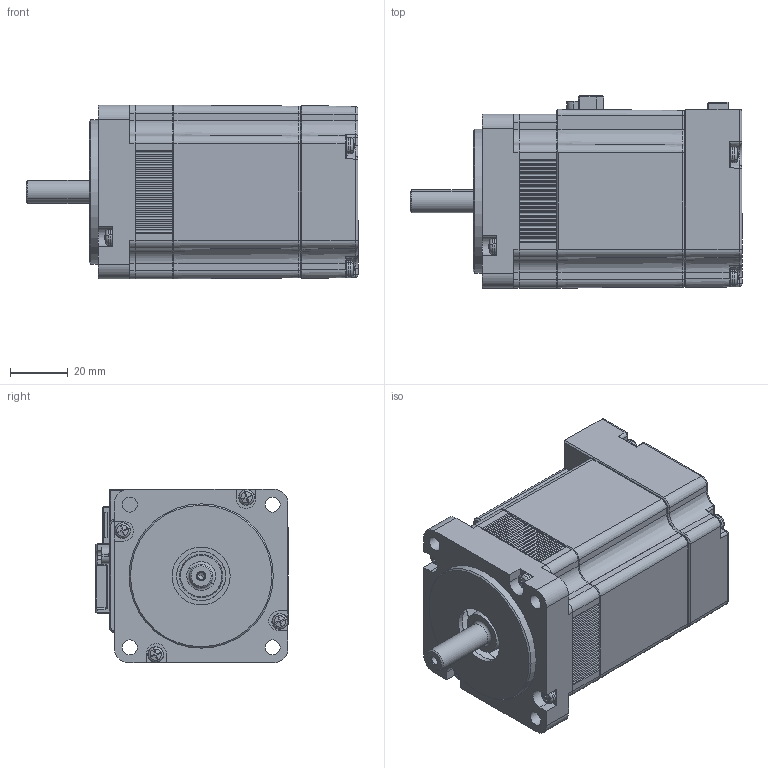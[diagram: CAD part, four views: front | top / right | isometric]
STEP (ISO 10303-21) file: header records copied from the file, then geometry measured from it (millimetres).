
FILE_DESCRIPTION (( 'STEP AP203' ), '1' );
FILE_NAME ('60-100W BRAKE(¿Ü°ü¿ë).STEP', '2022-09-07T04:56:14', ( '' ), ( '' ), 'SwSTEP 2.0', 'SolidWorks 2020', '' );
FILE_SCHEMA (( 'CONFIG_CONTROL_DESIGN' ));
Length unit declared in the file: millimetre
Products named in the file (9): __60-100W BRAKE SHAFT.STEP; M3X15_____.STEP; 60-100W BRAKE(諼婦辨); __60-100W FRAME.STEP; 60-200W 具胶墨客 海绢傅 函版 敲罚瘤; __60-100W BRACKET(BRAKE)___________ ______.STEP; POWER RECEPTACLE.STEP; __60 ENCODER COVER___________ ______.STEP; ENCODER Receptacle.STEP
Assembly tree (15 placements, depth 2):
  60-100W BRAKE(諼婦辨)
    __60-100W BRAKE SHAFT.STEP
    __60-100W FRAME.STEP
    ENCODER Receptacle.STEP
    POWER RECEPTACLE.STEP
    M3X15_____.STEP  x8
    __60 ENCODER COVER___________ ______.STEP
    __60-100W BRACKET(BRAKE)___________ ______.STEP
    60-200W 具胶墨客 海绢傅 函版 敲罚瘤
Bounding box: 115.1 x 66.65 x 60.3 mm (x, y, z)
Volume: 118963.4 mm3; surface area: 67120.5 mm2
Topology: 15 solids, 21 shells, 2193 faces, 5557 edges, 3477 vertices
Faces by surface type: plane 1069, cylinder 579, bspline 253, cone 178, torus 86, sphere 28
Full cylindrical faces by diameter (mm): 3.5 x4, 20.103 x1, 37 x1, 40.103 x1, 50 x1, 56.703 x1
Entity records: 67609 total; most frequent: CARTESIAN_POINT 19424, ORIENTED_EDGE 10068, DIRECTION 9505, EDGE_CURVE 5034, AXIS2_PLACEMENT_3D 3259, VERTEX_POINT 3164, LINE 2987, VECTOR 2987
